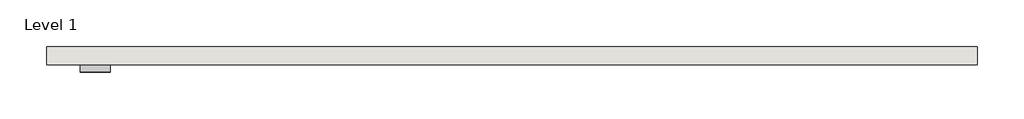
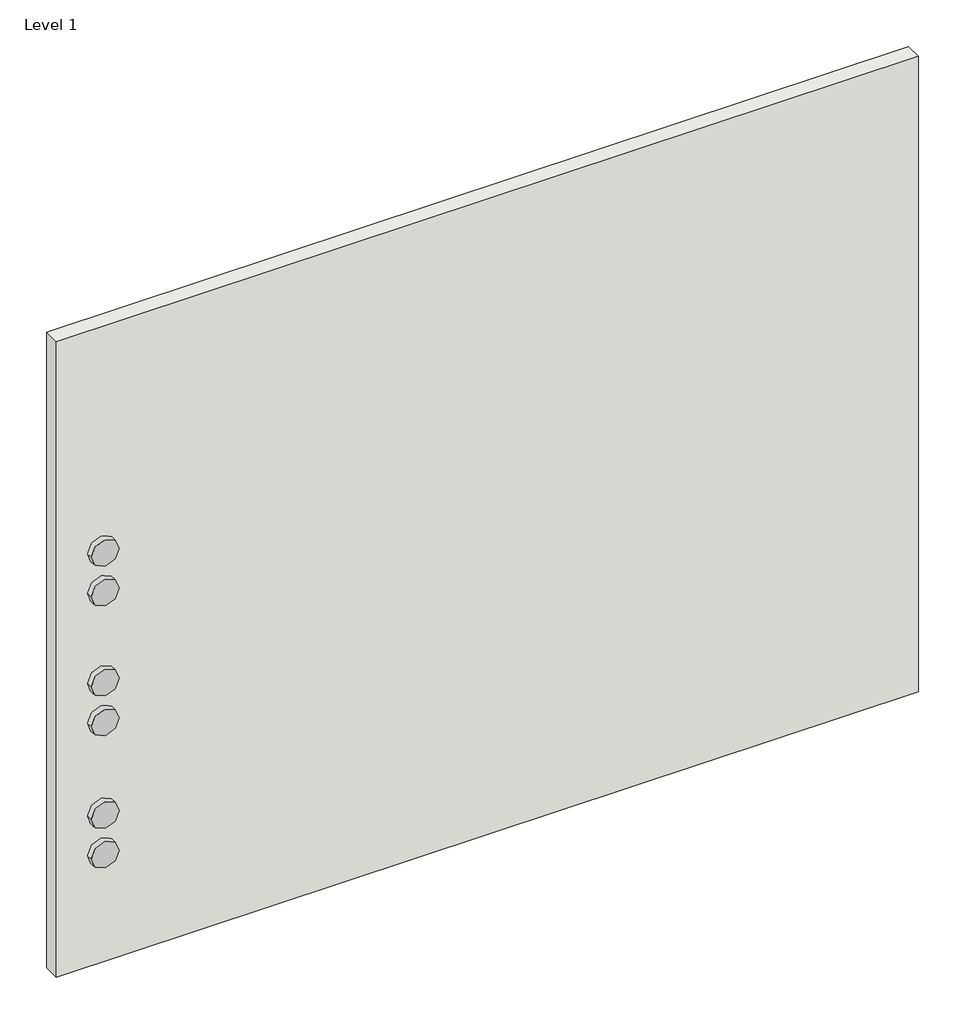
# One storey, incomplete: 6 proxies, 1 wall.
"""IFC4 building model written with IfcOpenShell, lengths in millimetres."""

from ifc_helpers import new_model, si_unit, origin, origin_with_axes, place, context, project, spatial, polyline, outline, extrude, transform, mapped, element, save
from components import materialmodel_materialmodel_d9ff14ed

model = new_model("IFC4")

# Units and contexts
model_context = context("Model", 3, world=origin())
ifc_project = project(units=[si_unit("LENGTHUNIT", "METRE", prefix="MILLI")], contexts=[model_context])

# Site, building, storey
site = spatial("IfcSite", under=ifc_project)
building = spatial("IfcBuilding", under=site)
storey = spatial("IfcBuildingStorey", under=building, Name="Level 1", Elevation=0.0)

# Proxies
placement = place(None, origin())
materialmodel_materialmodel_shape = materialmodel_materialmodel_d9ff14ed(model_context)
element("IfcBuildingElementProxy", 1, Name="MaterialModel : MaterialModel", ObjectType="MaterialModel : MaterialModel", at=placement, inside=storey, context=model_context, shape_type="MappedRepresentation", body=[
    mapped(materialmodel_materialmodel_shape, transform((-14203.0878992, 5257.5863071, 135.76307), x_axis=(1.0, 0.0, 0.0), y_axis=(0.0, 1.0, 0.0), z_axis=(0.0, 0.0, 1.0))),
])
element("IfcBuildingElementProxy", 2, Name="MaterialModel : MaterialModel", ObjectType="MaterialModel : MaterialModel", at=placement, inside=storey, context=model_context, shape_type="MappedRepresentation", body=[
    mapped(materialmodel_materialmodel_shape, transform((-14203.0878992, 5257.5863071, 210.76307), x_axis=(1.0, 0.0, 0.0), y_axis=(0.0, 1.0, 0.0), z_axis=(0.0, 0.0, 1.0))),
])
element("IfcBuildingElementProxy", 3, Name="MaterialModel : MaterialModel", ObjectType="MaterialModel : MaterialModel", at=placement, inside=storey, context=model_context, shape_type="MappedRepresentation", body=[
    mapped(materialmodel_materialmodel_shape, transform((-14203.0878992, 5257.5863071, 705.76307), x_axis=(1.0, 0.0, 0.0), y_axis=(0.0, 1.0, 0.0), z_axis=(0.0, 0.0, 1.0))),
])
element("IfcBuildingElementProxy", 4, Name="MaterialModel : MaterialModel", ObjectType="MaterialModel : MaterialModel", at=placement, inside=storey, context=model_context, shape_type="MappedRepresentation", body=[
    mapped(materialmodel_materialmodel_shape, transform((-14203.0878992, 5257.5863071, 630.76307), x_axis=(1.0, 0.0, 0.0), y_axis=(0.0, 1.0, 0.0), z_axis=(0.0, 0.0, 1.0))),
])
element("IfcBuildingElementProxy", 5, Name="MaterialModel : MaterialModel", ObjectType="MaterialModel : MaterialModel", at=placement, inside=storey, context=model_context, shape_type="MappedRepresentation", body=[
    mapped(materialmodel_materialmodel_shape, transform((-14203.0878992, 5257.5863071, 385.76307), x_axis=(1.0, 0.0, 0.0), y_axis=(0.0, 1.0, 0.0), z_axis=(0.0, 0.0, 1.0))),
])
element("IfcBuildingElementProxy", 6, Name="MaterialModel : MaterialModel", ObjectType="MaterialModel : MaterialModel", at=placement, inside=storey, context=model_context, shape_type="MappedRepresentation", body=[
    mapped(materialmodel_materialmodel_shape, transform((-14203.0878992, 5257.5863071, 460.76307), x_axis=(1.0, 0.0, 0.0), y_axis=(0.0, 1.0, 0.0), z_axis=(0.0, 0.0, 1.0))),
])

# Wall
element("IfcWall", 7, ObjectType="Presentation wall", at=placement, inside=storey, context=model_context, shape_type="SweptSolid", body=[
    extrude(outline(polyline([(-12743.5118995, 5257.6728282), (-14283.5118995, 5257.6728282), (-14283.5118995, 5287.6728282), (-12743.5118995, 5287.6728282), (-12743.5118995, 5257.6728282)])), origin_with_axes(), (0.0, 0.0, 1.0), 1200.0),
])

save(model, "model.ifc")
